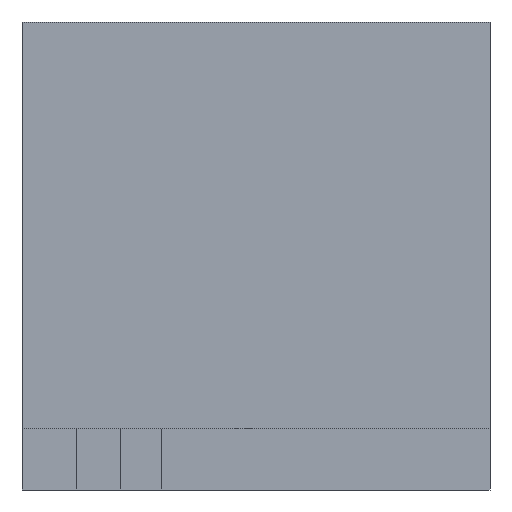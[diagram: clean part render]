
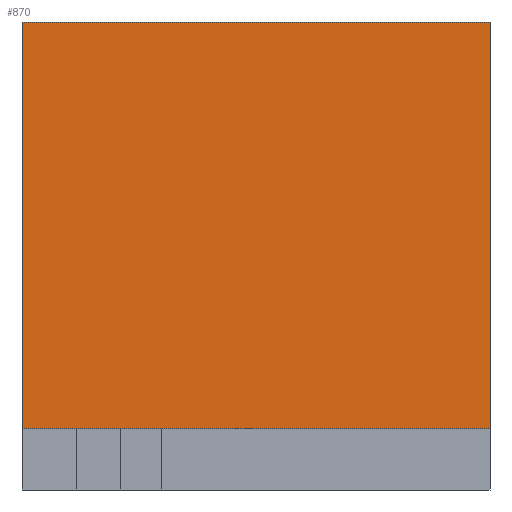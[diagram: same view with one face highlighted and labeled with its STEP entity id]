
A CAD part, front view. The second image highlights one B-rep face of the part: STEP entity #870.
In plain terms, the highlighted planar face has unit normal (0, -1, 0).
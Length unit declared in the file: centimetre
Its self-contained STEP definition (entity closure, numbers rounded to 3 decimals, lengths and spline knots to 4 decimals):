
#3 = CARTESIAN_POINT ( 'NONE',  ( 0., 0., 1000. ) ) ;
#45 = CARTESIAN_POINT ( 'NONE',  ( 1000., 0., 130.9036 ) ) ;
#80 = DIRECTION ( 'NONE',  ( 0., 0., 1. ) ) ;
#96 = DIRECTION ( 'NONE',  ( -1., 0., 0. ) ) ;
#178 = ORIENTED_EDGE ( 'NONE', *, *, #1131, .T. ) ;
#183 = DIRECTION ( 'NONE',  ( 0., 0., -1. ) ) ;
#185 = EDGE_CURVE ( 'NONE', #1313, #1386, #1187, .T. ) ;
#188 = CARTESIAN_POINT ( 'NONE',  ( 0., 0., 1000. ) ) ;
#271 = VERTEX_POINT ( 'NONE', #3 ) ;
#301 = LINE ( 'NONE', #188, #555 ) ;
#320 = VECTOR ( 'NONE', #96, 100. ) ;
#408 = PLANE ( 'NONE',  #1362 ) ;
#418 = DIRECTION ( 'NONE',  ( 0., 0., -1. ) ) ;
#442 = LINE ( 'NONE', #1100, #320 ) ;
#520 = EDGE_CURVE ( 'NONE', #1386, #1400, #442, .T. ) ;
#555 = VECTOR ( 'NONE', #873, 100. ) ;
#561 = EDGE_LOOP ( 'NONE', ( #178, #1110, #1226, #1013 ) ) ;
#750 = CARTESIAN_POINT ( 'NONE',  ( 1000., 0., 1000. ) ) ;
#839 = EDGE_CURVE ( 'NONE', #271, #1313, #301, .T. ) ;
#858 = CARTESIAN_POINT ( 'NONE',  ( 0., 0., 1000. ) ) ;
#870 = ADVANCED_FACE ( 'NONE', ( #1399 ), #408, .F. ) ;
#873 = DIRECTION ( 'NONE',  ( 1., 0., 0. ) ) ;
#886 = CARTESIAN_POINT ( 'NONE',  ( 1000., 0., 1000. ) ) ;
#944 = VECTOR ( 'NONE', #418, 100. ) ;
#974 = CARTESIAN_POINT ( 'NONE',  ( 0., 0., 1000. ) ) ;
#998 = LINE ( 'NONE', #974, #944 ) ;
#1013 = ORIENTED_EDGE ( 'NONE', *, *, #839, .F. ) ;
#1100 = CARTESIAN_POINT ( 'NONE',  ( 1000., 0., 130.9036 ) ) ;
#1110 = ORIENTED_EDGE ( 'NONE', *, *, #520, .F. ) ;
#1131 = EDGE_CURVE ( 'NONE', #271, #1400, #998, .T. ) ;
#1187 = LINE ( 'NONE', #750, #1273 ) ;
#1226 = ORIENTED_EDGE ( 'NONE', *, *, #185, .F. ) ;
#1273 = VECTOR ( 'NONE', #183, 100. ) ;
#1300 = DIRECTION ( 'NONE',  ( 0., 1., 0. ) ) ;
#1313 = VERTEX_POINT ( 'NONE', #886 ) ;
#1353 = CARTESIAN_POINT ( 'NONE',  ( 0., 0., 130.9036 ) ) ;
#1362 = AXIS2_PLACEMENT_3D ( 'NONE', #858, #1300, #80 ) ;
#1386 = VERTEX_POINT ( 'NONE', #45 ) ;
#1399 = FACE_OUTER_BOUND ( 'NONE', #561, .T. ) ;
#1400 = VERTEX_POINT ( 'NONE', #1353 ) ;
